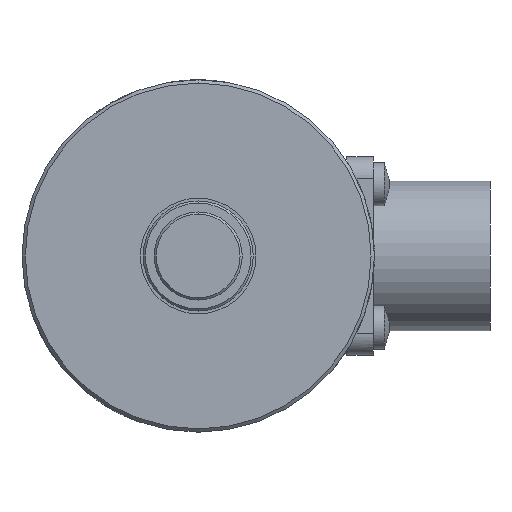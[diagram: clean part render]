
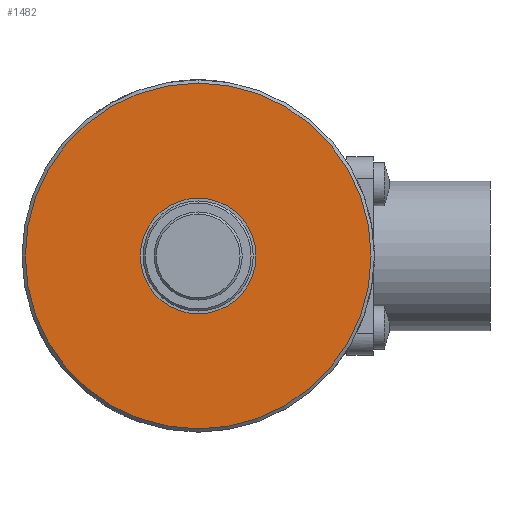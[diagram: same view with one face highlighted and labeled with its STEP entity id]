
A CAD part, front view. The second image highlights one B-rep face of the part: STEP entity #1482.
In plain terms, the highlighted planar face has unit normal (0, -1, 0).
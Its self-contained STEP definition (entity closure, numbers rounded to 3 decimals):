
#187 = EDGE_LOOP ( 'NONE', ( #4593, #4360 ) ) ;
#769 = AXIS2_PLACEMENT_3D ( 'NONE', #1188, #2508, #5222 ) ;
#824 = DIRECTION ( 'NONE',  ( 0., -1., 0. ) ) ;
#858 = VERTEX_POINT ( 'NONE', #3399 ) ;
#1188 = CARTESIAN_POINT ( 'NONE',  ( 0., -23.5, 0. ) ) ;
#1223 = CARTESIAN_POINT ( 'NONE',  ( 0., -23.5, 5.25 ) ) ;
#1482 = ADVANCED_FACE ( 'NONE', ( #1604, #1927 ), #3378, .T. ) ;
#1494 = CARTESIAN_POINT ( 'NONE',  ( 0., -23.5, 0. ) ) ;
#1502 = EDGE_CURVE ( 'NONE', #1515, #1643, #4616, .T. ) ;
#1515 = VERTEX_POINT ( 'NONE', #1223 ) ;
#1604 = FACE_OUTER_BOUND ( 'NONE', #187, .T. ) ;
#1643 = VERTEX_POINT ( 'NONE', #2992 ) ;
#1927 = FACE_BOUND ( 'NONE', #2745, .T. ) ;
#2353 = DIRECTION ( 'NONE',  ( 0., 0., -1. ) ) ;
#2508 = DIRECTION ( 'NONE',  ( 0., 1., 0. ) ) ;
#2580 = VERTEX_POINT ( 'NONE', #5373 ) ;
#2598 = DIRECTION ( 'NONE',  ( 0., 0., -1. ) ) ;
#2626 = CIRCLE ( 'NONE', #769, 5.25 ) ;
#2745 = EDGE_LOOP ( 'NONE', ( #3233, #4448 ) ) ;
#2795 = DIRECTION ( 'NONE',  ( 0., -1., 0. ) ) ;
#2992 = CARTESIAN_POINT ( 'NONE',  ( 0., -23.5, -5.25 ) ) ;
#3030 = AXIS2_PLACEMENT_3D ( 'NONE', #1494, #3273, #5043 ) ;
#3112 = AXIS2_PLACEMENT_3D ( 'NONE', #4814, #824, #2598 ) ;
#3233 = ORIENTED_EDGE ( 'NONE', *, *, #1502, .T. ) ;
#3273 = DIRECTION ( 'NONE',  ( 0., 1., 0. ) ) ;
#3318 = EDGE_CURVE ( 'NONE', #1643, #1515, #2626, .T. ) ;
#3320 = AXIS2_PLACEMENT_3D ( 'NONE', #4225, #3716, #5483 ) ;
#3378 = PLANE ( 'NONE',  #3320 ) ;
#3399 = CARTESIAN_POINT ( 'NONE',  ( 0., -23.5, -15.7 ) ) ;
#3716 = DIRECTION ( 'NONE',  ( 0., -1., 0. ) ) ;
#3735 = CARTESIAN_POINT ( 'NONE',  ( 0., -23.5, 0. ) ) ;
#4225 = CARTESIAN_POINT ( 'NONE',  ( -5.25, -23.5, 0. ) ) ;
#4360 = ORIENTED_EDGE ( 'NONE', *, *, #4409, .T. ) ;
#4409 = EDGE_CURVE ( 'NONE', #858, #2580, #4692, .T. ) ;
#4448 = ORIENTED_EDGE ( 'NONE', *, *, #3318, .T. ) ;
#4593 = ORIENTED_EDGE ( 'NONE', *, *, #4647, .T. ) ;
#4616 = CIRCLE ( 'NONE', #3030, 5.25 ) ;
#4647 = EDGE_CURVE ( 'NONE', #2580, #858, #5706, .T. ) ;
#4692 = CIRCLE ( 'NONE', #5245, 15.7 ) ;
#4814 = CARTESIAN_POINT ( 'NONE',  ( 0., -23.5, 0. ) ) ;
#5043 = DIRECTION ( 'NONE',  ( 0., 0., 1. ) ) ;
#5222 = DIRECTION ( 'NONE',  ( 0., 0., 1. ) ) ;
#5245 = AXIS2_PLACEMENT_3D ( 'NONE', #3735, #2795, #2353 ) ;
#5373 = CARTESIAN_POINT ( 'NONE',  ( 0., -23.5, 15.7 ) ) ;
#5483 = DIRECTION ( 'NONE',  ( 0., 0., -1. ) ) ;
#5706 = CIRCLE ( 'NONE', #3112, 15.7 ) ;
